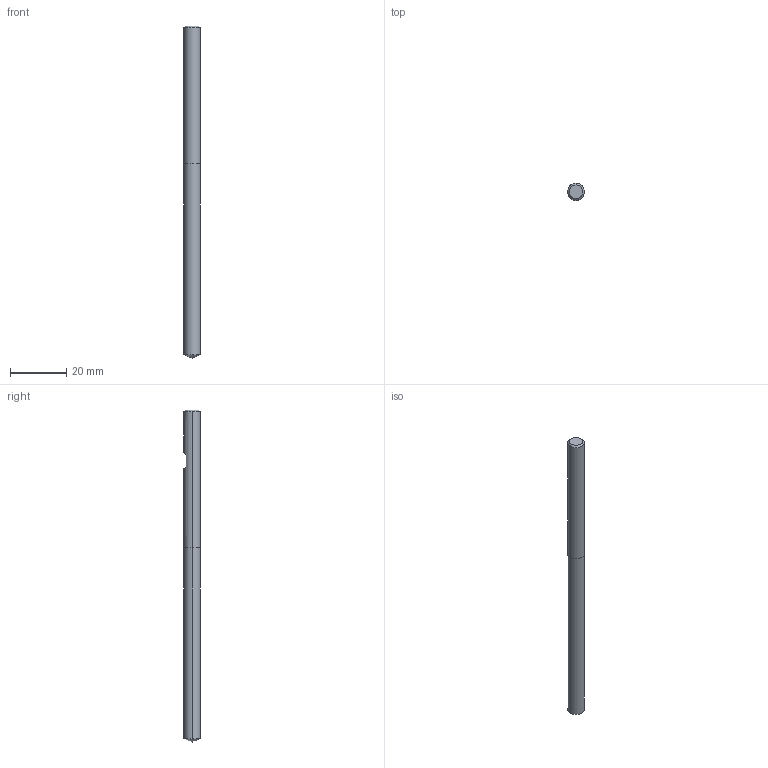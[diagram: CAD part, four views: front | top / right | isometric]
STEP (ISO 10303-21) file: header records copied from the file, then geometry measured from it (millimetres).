
FILE_DESCRIPTION (( 'STEP AP214' ), '1' );
FILE_NAME ('710.060.10_3D-model.step', '2022-02-22T17:28:50', ( '' ), ( '' ), 'SwSTEP 2.0', 'SolidWorks 2020', '' );
FILE_SCHEMA (( 'AUTOMOTIVE_DESIGN' ));
Length unit declared in the file: millimetre
Products named in the file (3): 710.060.10_3D-model; CUT-3D^Baugr105; NOCUT-3D^Baugr105
Assembly tree (2 placements, depth 2):
  710.060.10_3D-model
    CUT-3D^Baugr105
    NOCUT-3D^Baugr105
Bounding box: 6 x 6 x 118 mm (x, y, z)
Volume: 3296.7 mm3; surface area: 2309 mm2
Topology: 2 solids, 2 shells, 14 faces, 26 edges, 15 vertices
Faces by surface type: plane 6, cone 4, cylinder 4
Entity records: 456 total; most frequent: DIRECTION 76, CARTESIAN_POINT 67, ORIENTED_EDGE 48, AXIS2_PLACEMENT_3D 32, EDGE_CURVE 24, EDGE_LOOP 15, VERTEX_POINT 15, ADVANCED_FACE 14
